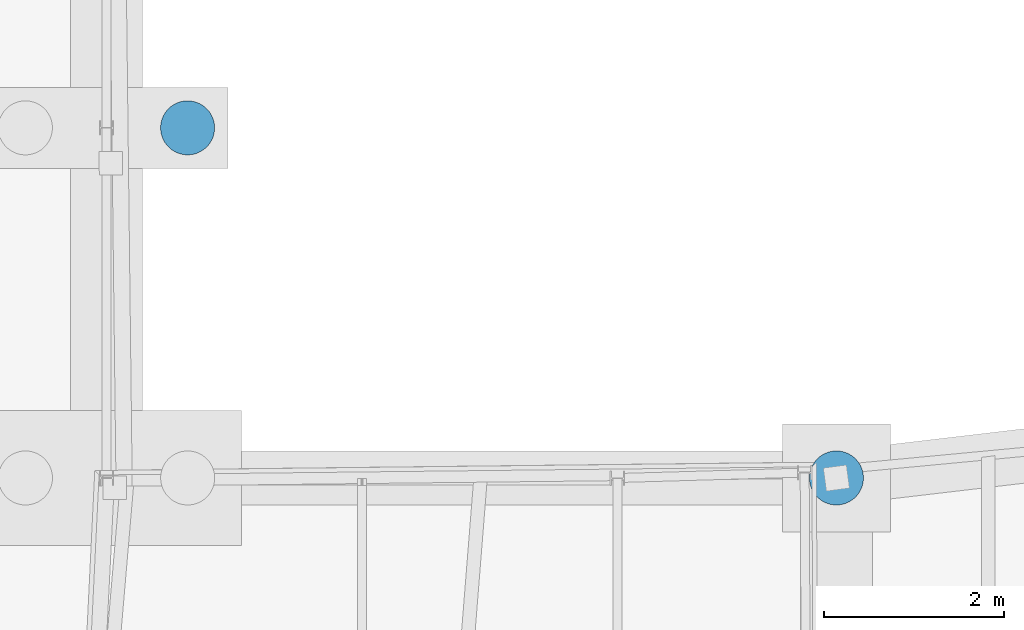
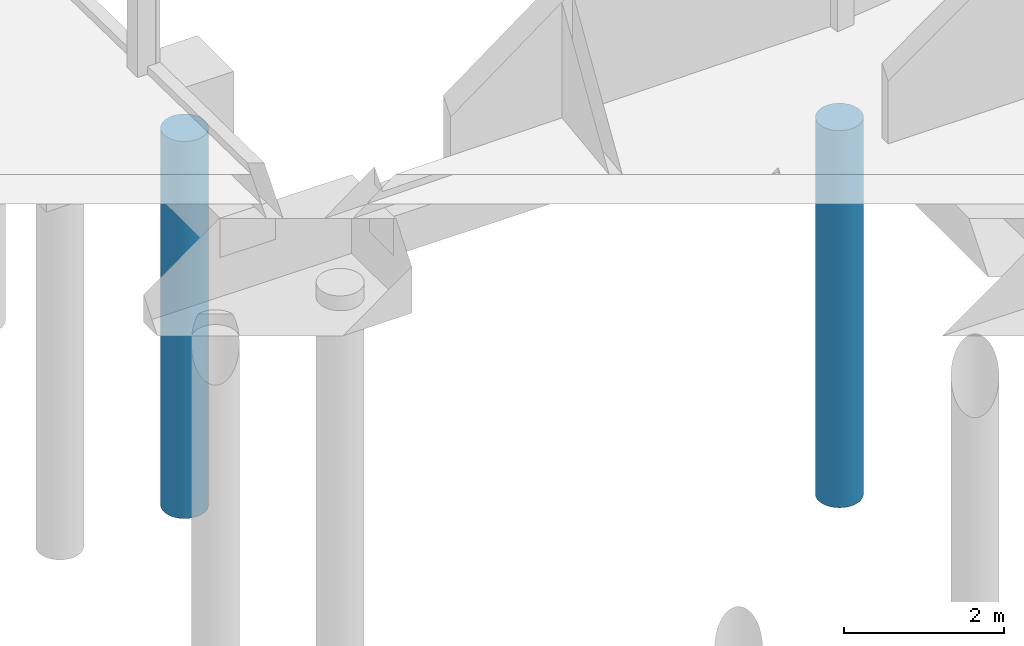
# One storey, part 50 of 82: 2 columns.
"""IFC2X3 building model written with IfcOpenShell, lengths in millimetres."""

from ifc_helpers import new_model, si_unit, frame, frame_2d, origin_with_axes, place, context, subcontext, project, spatial, circle, extrude, material, type_object, element, save


model = new_model("IFC2X3")

# Units and contexts
model_context = context("Model", 3, precision=1e-05, world=origin_with_axes())
body_context = subcontext(model_context, "Body", "Model", "MODEL_VIEW")
ifc_project = project(units=[si_unit("LENGTHUNIT", "METRE", prefix="MILLI"), si_unit("AREAUNIT", "SQUARE_METRE"), si_unit("VOLUMEUNIT", "CUBIC_METRE"), si_unit("MASSUNIT", "GRAM", prefix="KILO"), si_unit("TIMEUNIT", "SECOND"), si_unit("PLANEANGLEUNIT", "RADIAN"), si_unit("SOLIDANGLEUNIT", "STERADIAN"), si_unit("THERMODYNAMICTEMPERATUREUNIT", "DEGREE_CELSIUS"), si_unit("LUMINOUSINTENSITYUNIT", "LUMEN")], contexts=[model_context])

# Site, building, storey
site_placement = place(None, origin_with_axes())
site = spatial("IfcSite", under=ifc_project, at=site_placement, Name="Undefined", CompositionType="ELEMENT")
building_placement = place(site_placement, origin_with_axes())
building = spatial("IfcBuilding", under=site, at=building_placement, Name="Undefined", CompositionType="ELEMENT")
storey_placement = place(building_placement, origin_with_axes())
storey = spatial("IfcBuildingStorey", under=building, at=storey_placement, Name="Undefined", CompositionType="ELEMENT", Elevation=0.0)

# Columns
ifc_material = material(Name="CONCRETE/C25/30")
column_type = type_object("IfcColumnType", Name="D600", PredefinedType="NOTDEFINED")
column_1_placement = place(storey_placement, frame((37349.9999999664, 23545.0099999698, -7175.0), z_axis=(0.0, 0.0, 1.0), x_axis=(1.0, 0.0, 0.0)))
element("IfcColumn", 1, at=column_1_placement, inside=storey, type_object=column_type, material=ifc_material, Name="PIEU", ObjectType="D600", context=body_context, shape_type="SweptSolid", body=[
    extrude(circle(Radius=300.0, at=frame_2d((5.17284206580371e-08, 4.49290382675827e-10), x_axis=(1.0, 0.0))), frame((0.0, 0.0, 5750.0), z_axis=(0.0, -6.50000002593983e-08, -0.999999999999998), x_axis=(-1.0, 0.0, 0.0)), (0.0, 0.0, 1.0), 5750.0),
])
column_2_placement = place(storey_placement, frame((30149.9999999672, 27429.99999998, -7175.0), z_axis=(0.0, 0.0, 1.0), x_axis=(1.0, 0.0, 0.0)))
element("IfcColumn", 2, at=column_2_placement, inside=storey, type_object=column_type, material=ifc_material, Name="PIEU", ObjectType="D600", context=body_context, shape_type="SweptSolid", body=[
    extrude(circle(Radius=300.0, at=frame_2d((5.17284206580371e-08, 4.49290382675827e-10), x_axis=(1.0, 0.0))), frame((0.0, 0.0, 5750.0), z_axis=(0.0, -6.50000002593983e-08, -0.999999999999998), x_axis=(0.0, 1.0, 0.0)), (0.0, 0.0, 1.0), 5750.0),
])

save(model, "model.ifc")
